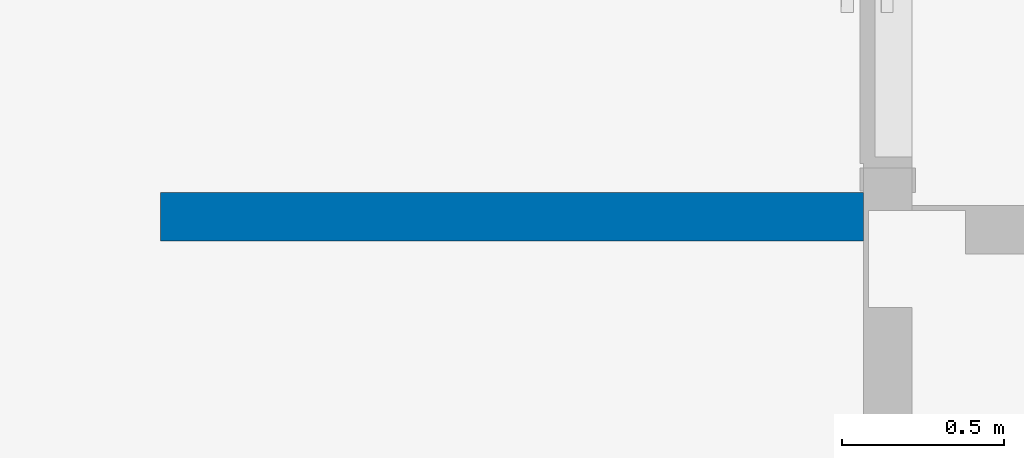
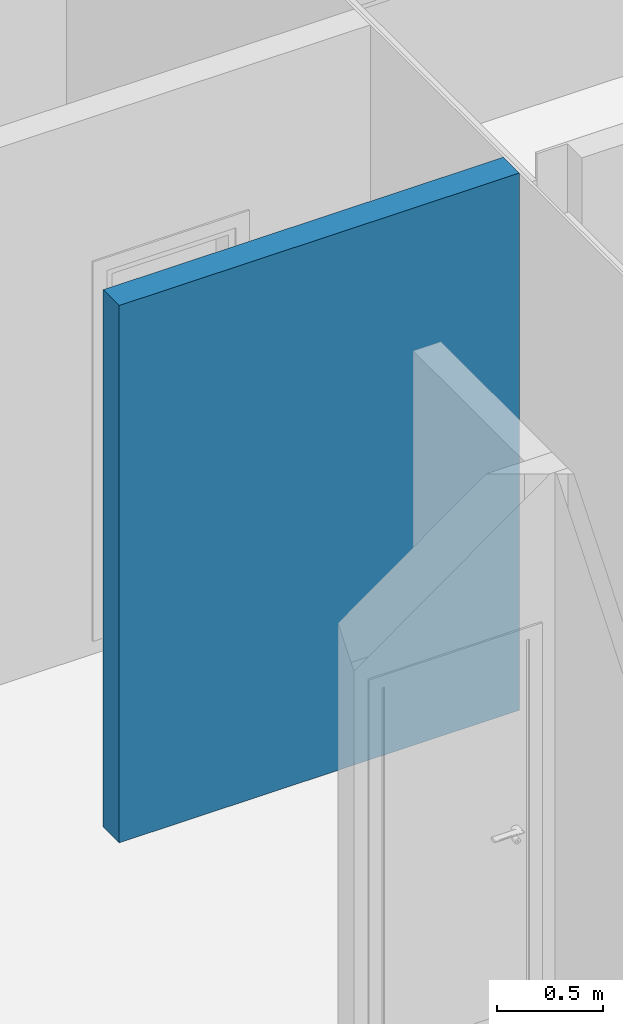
# One storey, part 6 of 11: 1 wall.
"""IFC2X3 building model written with IfcOpenShell, lengths in metres."""

from ifc_helpers import new_model, entity, si_unit, converted_unit, derived_unit, direction, frame, frame_2d, origin, place, context, subcontext, project, spatial, rectangle, extrude, material, layer, layer_set, layer_usage, type_object, element, save


model = new_model("IFC2X3")

# Units and contexts
model_context = context("Model", 3, precision=1e-05, world=origin(), true_north=direction((6.12303176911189e-17, 1.0)))
context_of_model = context(None, 3, precision=1e-05, world=origin(), true_north=direction((6.12303176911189e-17, 1.0)))
body_context = subcontext(model_context, "Body", "Model", "MODEL_VIEW")
ifc_project = project(units=[si_unit("LENGTHUNIT", "METRE"), si_unit("AREAUNIT", "SQUARE_METRE"), si_unit("VOLUMEUNIT", "CUBIC_METRE"), converted_unit("PLANEANGLEUNIT", "DEGREE", entity("IfcRatioMeasure", 0.0174532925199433), si_unit("PLANEANGLEUNIT", "RADIAN"), dimensions=[0, 0, 0, 0, 0, 0, 0]), si_unit("MASSUNIT", "GRAM", prefix="KILO"), si_unit("TIMEUNIT", "SECOND"), si_unit("FREQUENCYUNIT", "HERTZ"), si_unit("THERMODYNAMICTEMPERATUREUNIT", "DEGREE_CELSIUS"), derived_unit("THERMALTRANSMITTANCEUNIT", [(si_unit("MASSUNIT", "GRAM", prefix="KILO"), 1), (si_unit("THERMODYNAMICTEMPERATUREUNIT", "KELVIN"), -1), (si_unit("TIMEUNIT", "SECOND"), -3)]), derived_unit("VOLUMETRICFLOWRATEUNIT", [(si_unit("LENGTHUNIT", "METRE"), 3), (si_unit("TIMEUNIT", "SECOND"), -1)]), si_unit("ELECTRICCURRENTUNIT", "AMPERE"), si_unit("ELECTRICVOLTAGEUNIT", "VOLT"), si_unit("POWERUNIT", "WATT"), si_unit("FORCEUNIT", "NEWTON", prefix="KILO"), si_unit("ILLUMINANCEUNIT", "LUX"), si_unit("LUMINOUSFLUXUNIT", "LUMEN"), si_unit("LUMINOUSINTENSITYUNIT", "CANDELA"), si_unit("PRESSUREUNIT", "PASCAL")], contexts=[model_context, context_of_model])

# Site, building, storey
site_placement = place(None, origin())
site = spatial("IfcSite", under=ifc_project, at=site_placement, Name="Default", CompositionType="ELEMENT")
building_placement = place(site_placement, origin())
building = spatial("IfcBuilding", under=site, at=building_placement, CompositionType="ELEMENT")
storey_placement = place(building_placement, frame((0.0, 0.0, 0.12)))
storey = spatial("IfcBuildingStorey", under=building, at=storey_placement, Name="01.ES.FORJADO PLANTA BAJA", CompositionType="ELEMENT", Elevation=0.12)

# Wall
ifc_material = material(Name="Muro por defecto")
ifc_layer = layer(ifc_material, 0.15)
ifc_layer_set = layer_set([ifc_layer], Name="Muro básico:Por defecto - 15 cm")
ifc_layer_usage = layer_usage(ifc_layer_set, "AXIS2", "POSITIVE", -0.075)
wall_type = type_object("IfcWallType", Name="Muro básico:Por defecto - 15 cm", PredefinedType="STANDARD", material=ifc_layer_set)
wall_placement = place(storey_placement, frame((9.22999999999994, 8.73000000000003, 0.0)))
element("IfcWallStandardCase", 1, at=wall_placement, inside=storey, type_object=wall_type, material=ifc_layer_usage, Name="Muro básico:Por defecto - 15 cm", ObjectType="Muro básico:Por defecto - 15 cm", context=body_context, shape_type="SweptSolid", body=[
    extrude(rectangle(XDim=2.17000000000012, YDim=0.150000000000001, at=frame_2d((1.08500000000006, 0.0), x_axis=(-1.0, 0.0))), origin(), (0.0, 0.0, 1.0), 3.08),
])

save(model, "model.ifc")
